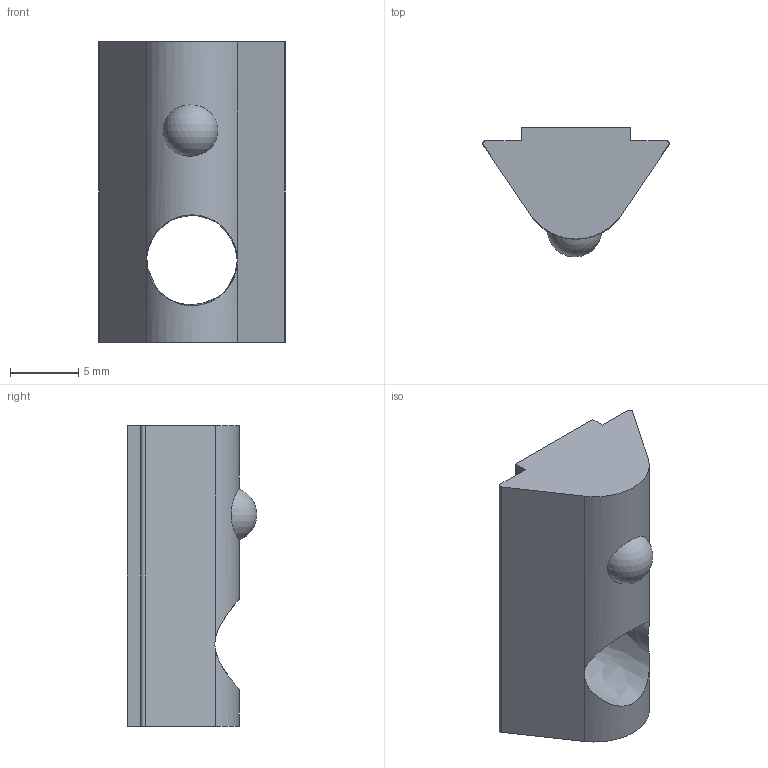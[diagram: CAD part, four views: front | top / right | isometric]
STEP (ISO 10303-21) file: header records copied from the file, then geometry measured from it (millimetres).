
FILE_DESCRIPTION((''),'2;1');
FILE_NAME('E:\catalogue and flyer\Profile catalogue 2015\Accessories JE info\Accessories-JE step file 31MAr16\JE-HRN6-8_4040.stp','2016-03-31T16:06:47',('h029'),(''),'Autodesk Inventor 11','Autodesk Inventor 11','');
FILE_SCHEMA(('AUTOMOTIVE_DESIGN { 1 0 10303 214 1 1 1 1 }'));
Length unit declared in the file: millimetre
Products named in the file (1): JE-HRN6-8_4040
Bounding box: 13.64 x 9.5 x 22 mm (x, y, z)
Volume: 1327.9 mm3; surface area: 1031 mm2
Topology: 1 solids, 1 shells, 15 faces, 40 edges, 27 vertices
Faces by surface type: plane 9, cylinder 4, bspline 1, sphere 1
Entity records: 632 total; most frequent: CARTESIAN_POINT 238, ORIENTED_EDGE 76, DIRECTION 74, EDGE_CURVE 38, VERTEX_POINT 26, VECTOR 26, LINE 26, AXIS2_PLACEMENT_3D 24
